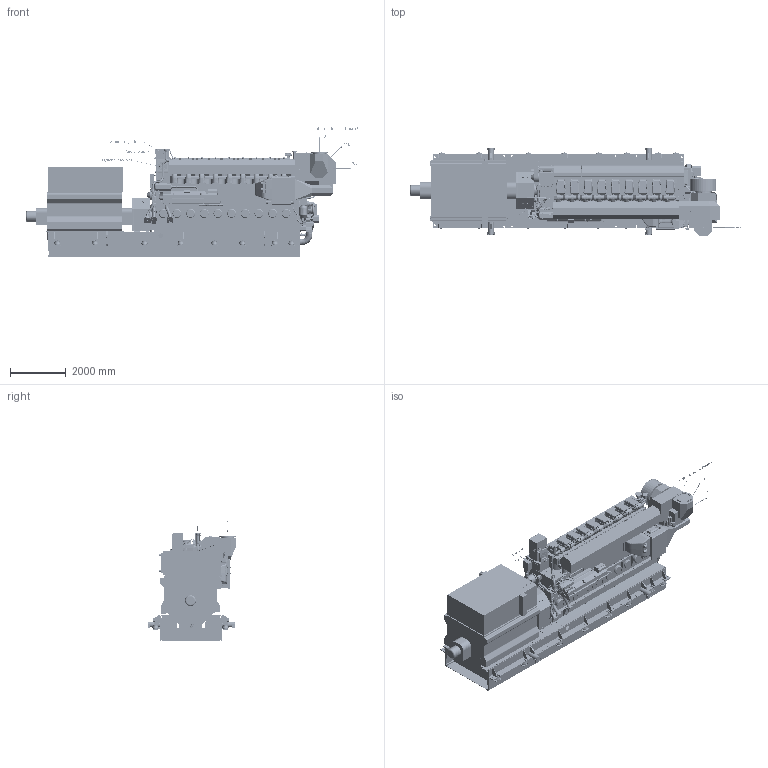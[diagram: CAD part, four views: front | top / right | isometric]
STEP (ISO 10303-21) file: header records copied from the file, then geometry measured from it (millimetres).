
FILE_DESCRIPTION(/* description */ (''),/* implementation_level */ '2;1');
FILE_NAME(/* name */ 'DAAF382495_A.stp',/* time_stamp */ '2021-12-30T12:52:32+02:00',/* author */ (''),/* organization */ (''),/* preprocessor_version */ 'ST-DEVELOPER v16.7',/* originating_system */ 'SIEMENS PLM Software NX 1915',/* authorisation */ '');
FILE_SCHEMA (('AUTOMOTIVE_DESIGN { 1 0 10303 214 3 1 1 1 }'));
Products named in the file (75): PAAF559689--_COVER; PABA066964--_Double wall gas vent system; PAAF906213--_NITROGEN GAS PIPE; PAAF975683--_Gas feed pipe double wall; PAAF078241--_COVER; PAAF977365--_Electrical equipment for side cover; PAAF975946--_gas pipe between cylinders; PAAF975926--_main gas admission valve; PAAF238216--_CRANKSHAFT; PAAF245469--_LUBE OIL MODULE; PAAF078708--_ACTUATOR; PABA142427--_Control air system WG_BP TCF; PAAF211503--_WASTE GATE _ BY-PASS; PAAF277184--_TURBOCHARGER; PAAF093447--_SEPARATOR CONNECTIONS; PAAF977184--_Control air system WG_BP system TC FE; PAAF675626--_OIL MIST DETECTOR; PABA135981--_Electrical equipment for lube oil module_ TCFE; PAAF270351--_EQUIPMENT; PAAF909498--_LOCAL CONTROL PANEL; PAAF906214--_ELECTRICAL EQUIPMENT; PABA065520--_Counter flange for HT preheating_ connection 406; PAAF243367--_GOVERNOR; PAAF486326--_AIR SYSTEM; PAAF721110--_DRAIN PIPE; PAAF776393--_AIR INLET PIPE; PAAF681233--_AIR INLET PIPE; PAAF202746--_CLEANING DEVICE; PAAF280989--_COVERS; PAAF683775--_AIR INLET BOX; PAAF066759--_INSULATION BOX; PAAF322125--_TURBOCHARGER BRACKET; PAAF671497--_AIR VENT PIPE; PAAF078621--_LT-WATER PIPES; PAAF078619--_LT-WATER PIPES; PAAF068492--_AIR VENT SYSTEM; PAAF093819--_WATER CONNECTION; PAAF093585--_STARTING AIR PIPES; PABA041419--_Lube oil system forr ABBA155 in free end; PAAF271372--_MOTOR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
Assembly tree (104 placements, depth 3):
  DAAF382495_A-Outline drawing
    PABA332367--_HYUNDAI HSJ9 917-10P
    PABA332356--_FLYWHEEL COVER
    PABA332355--_COMMON BASE FRAME
    PABA332354--_Mounts_MODEL
      PAAF856550--  x16
    PABA332349--_W9L34DFC-TCF_MODEL
      PABA036864--_Cylinder heads multiducts cylinder liner
      PAAF063633--_ENGINE BLOCK
      PAAF291916--_INTERMEDIATE GEAR
      PAAF906204--_SHUT-DOWN MECHANISM
      PAAF063771--_COVERS
      PAAF895907--_COVERS
      PAAF978290--_Covers top shields 9L
      PAAF976976--_Cylinder head covers 9L
      PAAF064319--_COVERS
      PAAF074388--_END COVER
      PAAF243671--_PUMP COVER
      PAAF243623--_FUEL PIPES
      PAAF397145--_COVERS
      PAAF247479--_FRAME
      PAAF087082--_A_LEAK FUEL PIPES
      PAAF087111--_LEAK FUEL SYSTEM
      PAAF087114--_LEAK FUEL SYSTEM
      PAAF087122--_LEAK FUEL PIPES
      PAAF078074--_TURNING DEVICE
      PAAF247485--_LUBRICATING OIL PUMP
      PAAF247483--_OIL PIPE
      PAAF087136--_LUBRICATING OIL PIPES
      PAAF243686--_CENTRIFUGAL FILTER
      PAAF087145--_OIL SUCTION PIPE
      PAAF074445--_WET SUMP
      PAAF271372--_MOTOR
      PABA041419--_Lube oil system forr ABBA155 in free end
      PAAF093585--_STARTING AIR PIPES
      PAAF093819--_WATER CONNECTION
      PAAF068492--_AIR VENT SYSTEM
      PAAF078619--_LT-WATER PIPES
      PAAF078621--_LT-WATER PIPES
      PAAF671497--_AIR VENT PIPE
      PAAF322125--_TURBOCHARGER BRACKET
      PAAF066759--_INSULATION BOX
      PAAF683775--_AIR INLET BOX
      PAAF280989--_COVERS
      PAAF202746--_CLEANING DEVICE
      PAAF681233--_AIR INLET PIPE
      PAAF776393--_AIR INLET PIPE
      PAAF721110--_DRAIN PIPE
      PAAF486326--_AIR SYSTEM
      PAAF243367--_GOVERNOR
      PABA065520--_Counter flange for HT preheating_ connection 406
      PAAF906214--_ELECTRICAL EQUIPMENT
      PAAF909498--_LOCAL CONTROL PANEL
      PAAF270351--_EQUIPMENT
      PABA135981--_Electrical equipment for lube oil module_ TCFE
      PAAF675626--_OIL MIST DETECTOR
      PAAF977184--_Control air system WG_BP system TC FE
      PAAF093447--_SEPARATOR CONNECTIONS
      PAAF277184--_TURBOCHARGER
      PAAF211503--_WASTE GATE _ BY-PASS
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Bounding box: 11910.56 x 3187.25 x 4662.97 mm (x, y, z)
Volume: 32637639042.7 mm3; surface area: 431253318.5 mm2
Topology: 794 solids, 811 shells, 27217 faces, 70720 edges, 46029 vertices
Faces by surface type: plane 14495, cylinder 8582, bspline 2074, extrusion 877, torus 609, cone 518, sphere 59, revolution 3
Full cylindrical faces by diameter (mm): 0.7 x2, 1 x9, 2 x2, 3 x3, 4.9 x1, 5 x8, 6 x14, 6.8 x136, 6.9 x1, 7 x4, 8 x161, 8.1 x1, 9 x10, 9.7 x1, 10 x129, 10.25 x10, 11 x8, 11.908 x1, 12 x42, 12.3 x1, 13.2 x4, 13.5 x4, 13.8 x132, 14 x338, 14.5 x1, 14.989 x2, 15 x8, 15.5 x4, 15.6 x4, 15.7 x4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
Entity records: 1029485 total; most frequent: CARTESIAN_POINT 389595, ORIENTED_EDGE 127912, DIRECTION 120698, EDGE_CURVE 63956, VERTEX_POINT 43396, AXIS2_PLACEMENT_3D 41200, VECTOR 38295, LINE 37418
